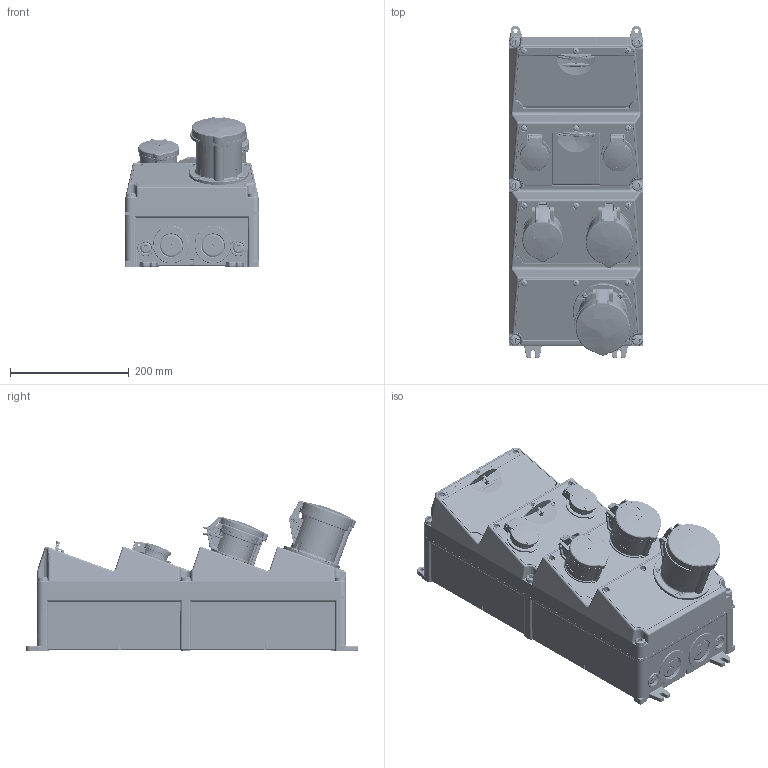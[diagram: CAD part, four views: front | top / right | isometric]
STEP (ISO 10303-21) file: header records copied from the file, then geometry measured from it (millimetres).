
FILE_DESCRIPTION((''),'2;1');
FILE_NAME('940044-1_ASM_1_ASM','2018-06-12T',('prakek'),('MENNEKES'),'PRO/ENGINEER BY PARAMETRIC TECHNOLOGY CORPORATION, 2015440','PRO/ENGINEER BY PARAMETRIC TECHNOLOGY CORPORATION, 2015440','');
FILE_SCHEMA(('AUTOMOTIVE_DESIGN { 1 0 10303 214 1 1 1 1 }'));
Products named in the file (17): 4-4_SW_O_GRAU_1; MANIFOLD_SOLID_BREP_261038; MANIFOLD_SOLID_BREP_349401; MANIFOLD_SOLID_BREP_349738; MANIFOLD_SOLID_BREP_352217; FI_4POL_4TE_1_ASM; LS_3POL_3TE_1; LS_1POL_1TE_1; MP_LEER_GRAU_1; MP_FEN4_44_OBEN_GRAU_1; MP_FEN10_44_OBEN_GRAU_1; BAUTEIL_DUMMY__1; AMAXX_CEE_63_5_44_ROT_1; AMAXX_CEE_32_5_44_ROT_1; AMAXX_CEE_16_5_44_ROT_1; AMAXX_SCHUKO_44_BLAU_1; 940044-1_ASM_1_ASM
Assembly tree (20 placements, depth 3):
  940044-1_ASM_1_ASM
    4-4_SW_O_GRAU_1
    FI_4POL_4TE_1_ASM
      MANIFOLD_SOLID_BREP_261038
      MANIFOLD_SOLID_BREP_349401
      MANIFOLD_SOLID_BREP_349738
      MANIFOLD_SOLID_BREP_352217
    LS_3POL_3TE_1  x2
    LS_1POL_1TE_1  x2
    MP_LEER_GRAU_1  x2
    MP_FEN4_44_OBEN_GRAU_1
    MP_FEN10_44_OBEN_GRAU_1
    BAUTEIL_DUMMY__1
    AMAXX_CEE_63_5_44_ROT_1
    AMAXX_CEE_32_5_44_ROT_1
    AMAXX_CEE_16_5_44_ROT_1
    AMAXX_SCHUKO_44_BLAU_1  x2
Bounding box: 225 x 558.2 x 251.98 mm (x, y, z)
Volume: 13908747.8 mm3; surface area: 1434095.9 mm2
Topology: 18 solids, 18 shells, 15104 faces, 41675 edges, 26592 vertices
Faces by surface type: plane 7178, cylinder 4230, torus 1331, bspline 1312, cone 504, sphere 357, extrusion 192
Entity records: 613141 total; most frequent: CARTESIAN_POINT 176000, ORIENTED_EDGE 71736, DIRECTION 63381, EDGE_CURVE 35868, VERTEX_POINT 22912, AXIS2_PLACEMENT_3D 22255, PRESENTATION_STYLE_ASSIGNMENT 20695, STYLED_ITEM 19381
